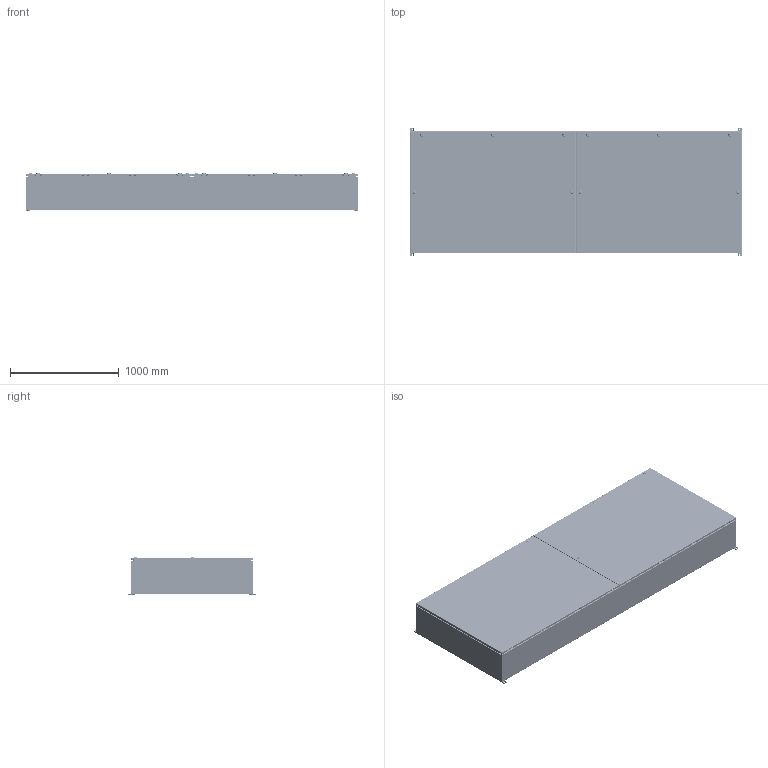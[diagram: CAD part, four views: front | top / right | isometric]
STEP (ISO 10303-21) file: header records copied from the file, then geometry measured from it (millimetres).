
FILE_DESCRIPTION(/* description */ ('1412BTCU 2500A - 5 Wires x 120" Assembly'),/* implementation_level */ '2;1');
FILE_NAME(/* name */ 'C:\Vault_Workspace\Inventor_Dwg\BoxCad\Result\1412BTCU102505\e-mail\3D\1412BTCU102505.stp',/* time_stamp */ '2022-09-21T20:55:20-04:00',/* author */ ('BoxCad'),/* organization */ (''),/* preprocessor_version */ 'ST-DEVELOPER v18.1',/* originating_system */ 'Autodesk Inventor 2020',/* authorisation */ '');
FILE_SCHEMA (('AUTOMOTIVE_DESIGN { 1 0 10303 214 3 1 1 }'));
Products named in the file (70): 1412BTCU102505; 1412BTCU102505B; 1412BTCU102505B-P; 1412BTCU102505E-P; STK-Q-16005; iLogic_STK-G-00701; STK-Q-00260; STK-Q-07220-1; STK-Q-07220-A; STK-Q-07220-B; 1412BTCU102505C; 1412BTCU102505C-P; 1412BTCU102505F-P; 1412BTCU102505G; STK-Q-16080; STK-K-09800; STK-Q-33014; STK-Q-90398; STK-Q-40095; STK-Q-63410; STK-S-00100; STK-P-02400S; STK-A-880SCQ4-SL-1; STK-A-880SCQ4-SL-2; STK-A-880SCQ4-SL-3; STK-A-880SCQ4-SL-4; STK-A-880SCQ4-SL-5; STK-A-880SCQ4-SL-6; STK-Q-78140; STK-A-880SCQ4-SL-7; STK-A-880SCQ4-SL-8; STK-A-880SCQ4-SL-9; STK-A-880SCQ4-SL-10; STK-Q-78110; STK-Q-78120; STK-Q-78145; STK-Q-03200; STK-Q-78125; STK-Q-78141; STK-Q-90390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
Assembly tree (265 placements, depth 4):
  1412BTCU102505
    1412BTCU102505B
      1412BTCU102505B-P
      1412BTCU102505E-P
      STK-Q-16080  x2
      STK-Q-16005  x14
      iLogic_STK-G-00701
      STK-Q-00260  x10
      STK-Q-07220-1  x10
        STK-Q-07220-A
        STK-Q-07220-B
      STK-S-00100
      STK-P-02400S
    1412BTCU102505C
      1412BTCU102505C-P
      1412BTCU102505F-P
      1412BTCU102505G  x2
      STK-Q-16080  x2
      STK-K-09800  x8
        STK-Q-33014
        STK-Q-90398
        STK-Q-40095
        STK-Q-63410
      STK-S-00100
      STK-P-02400S
      STK-A-880SCQ4-SL-1
        STK-Q-78110
        STK-Q-78120
        STK-Q-78145
        STK-Q-03200
        STK-Q-78125
        STK-Q-78141
        STK-Q-90390
        STK-Q-78160
      STK-A-880SCQ4-SL-2
        STK-Q-78110
        STK-Q-78120
        STK-Q-78145
        STK-Q-03200
        STK-Q-78125
        STK-Q-78141
        STK-Q-90390
        STK-Q-78160
      STK-A-880SCQ4-SL-3
        STK-Q-78110
        STK-Q-78120
        STK-Q-78145
        STK-Q-03200
        STK-Q-78125
        STK-Q-78141
        STK-Q-90390
        STK-Q-78160
      STK-A-880SCQ4-SL-4
        STK-Q-78110
        STK-Q-78120
        STK-Q-78145
        STK-Q-03200
        STK-Q-78125
        STK-Q-78141
        STK-Q-90390
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Bounding box: 3048 x 1174.75 x 344.99 mm (x, y, z)
Volume: 45069507.6 mm3; surface area: 28936960.7 mm2
Topology: 407 solids, 407 shells, 57529 faces, 149936 edges, 93086 vertices
Faces by surface type: plane 21013, bspline 15398, cylinder 14439, torus 4469, sphere 1342, cone 868
Full cylindrical faces by diameter (mm): 0.75 x18, 0.762 x18, 1 x32, 1.1 x32, 3.2 x16, 4.5 x80, 4.521 x32, 4.85 x64, 4.95 x16, 5 x10, 5.1 x148, 5.6 x8, 5.9 x278, 6.65 x34, 6.8 x10, 6.85 x128, 7.3 x8, 7.366 x8, 7.8 x820, 7.9 x14, 8 x76, 8.25 x40, 8.382 x8, 8.6 x12, 9.5 x10, 9.6 x10, 9.7 x48, 9.906 x4, 10 x10, 10.312 x2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
Entity records: 231360 total; most frequent: CARTESIAN_POINT 87383, ORIENTED_EDGE 31242, DIRECTION 26464, EDGE_CURVE 15621, VERTEX_POINT 9931, AXIS2_PLACEMENT_3D 9218, LINE 8028, VECTOR 8028
